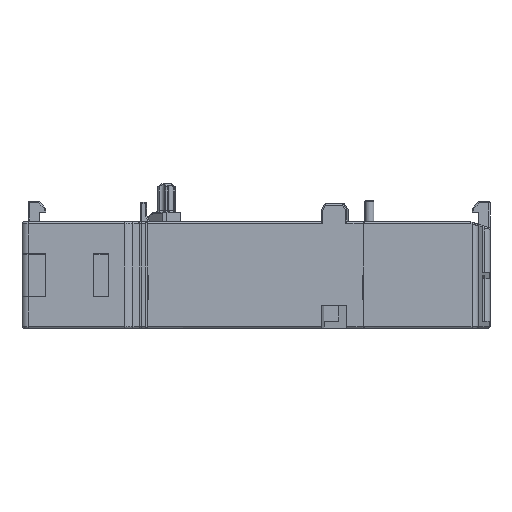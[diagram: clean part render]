
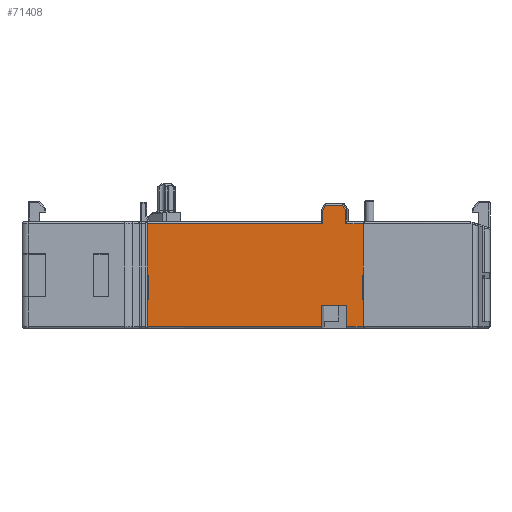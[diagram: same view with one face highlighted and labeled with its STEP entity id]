
A CAD part, front view. The second image highlights one B-rep face of the part: STEP entity #71408.
In plain terms, the highlighted planar face has unit normal (0, -1, 0).
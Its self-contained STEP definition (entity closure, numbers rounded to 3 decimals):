
#2651=DIRECTION('',(0.,0.,1.));
#2652=VECTOR('',#2651,4.55);
#2653=CARTESIAN_POINT('',(9.8,-46.,0.3));
#2654=LINE('',#2653,#2652);
#2667=DIRECTION('',(-1.,0.,0.));
#2668=VECTOR('',#2667,0.1);
#2669=CARTESIAN_POINT('',(9.8,-46.,8.85));
#2670=LINE('',#2669,#2668);
#23245=DIRECTION('',(0.,0.,-1.));
#23246=VECTOR('',#23245,4.);
#23247=CARTESIAN_POINT('',(-26.,-46.,8.85));
#23248=LINE('',#23247,#23246);
#23249=DIRECTION('',(-1.,0.,0.));
#23250=VECTOR('',#23249,0.2);
#23251=CARTESIAN_POINT('',(-26.,-46.,8.85));
#23252=LINE('',#23251,#23250);
#23393=DIRECTION('',(1.,0.,0.));
#23394=VECTOR('',#23393,0.2);
#23395=CARTESIAN_POINT('',(-26.2,-46.,4.85));
#23396=LINE('',#23395,#23394);
#23397=DIRECTION('',(0.,0.,-1.));
#23398=VECTOR('',#23397,8.55);
#23399=CARTESIAN_POINT('',(-26.2,-46.,17.4));
#23400=LINE('',#23399,#23398);
#23401=DIRECTION('',(1.,0.,0.));
#23402=VECTOR('',#23401,29.192);
#23403=CARTESIAN_POINT('',(-26.2,-46.,17.4));
#23404=LINE('',#23403,#23402);
#23405=DIRECTION('',(-0.506,0.,-0.863));
#23406=VECTOR('',#23405,0.989);
#23407=CARTESIAN_POINT('',(3.493,-46.,20.5));
#23408=LINE('',#23407,#23406);
#23409=DIRECTION('',(1.,0.,0.));
#23410=VECTOR('',#23409,2.858);
#23411=CARTESIAN_POINT('',(3.493,-46.,20.5));
#23412=LINE('',#23411,#23410);
#23413=DIRECTION('',(-0.506,0.,0.863));
#23414=VECTOR('',#23413,0.989);
#23415=CARTESIAN_POINT('',(6.851,-46.,19.646));
#23416=LINE('',#23415,#23414);
#23417=DIRECTION('',(1.,0.,0.));
#23418=VECTOR('',#23417,2.949);
#23419=CARTESIAN_POINT('',(6.851,-46.,17.4));
#23420=LINE('',#23419,#23418);
#23421=DIRECTION('',(0.,0.,-1.));
#23422=VECTOR('',#23421,8.55);
#23423=CARTESIAN_POINT('',(9.8,-46.,17.4));
#23424=LINE('',#23423,#23422);
#23425=DIRECTION('',(0.,0.,-1.));
#23426=VECTOR('',#23425,4.);
#23427=CARTESIAN_POINT('',(9.7,-46.,8.85));
#23428=LINE('',#23427,#23426);
#23429=DIRECTION('',(1.,0.,0.));
#23430=VECTOR('',#23429,0.1);
#23431=CARTESIAN_POINT('',(9.7,-46.,4.85));
#23432=LINE('',#23431,#23430);
#23433=DIRECTION('',(-1.,0.,0.));
#23434=VECTOR('',#23433,2.832);
#23435=CARTESIAN_POINT('',(9.8,-46.,0.3));
#23436=LINE('',#23435,#23434);
#23437=DIRECTION('',(0.,0.,1.));
#23438=VECTOR('',#23437,3.5);
#23439=CARTESIAN_POINT('',(6.968,-46.,0.3));
#23440=LINE('',#23439,#23438);
#23441=DIRECTION('',(-1.,0.,0.));
#23442=VECTOR('',#23441,4.163);
#23443=CARTESIAN_POINT('',(6.968,-46.,3.8));
#23444=LINE('',#23443,#23442);
#23445=DIRECTION('',(0.,0.,1.));
#23446=VECTOR('',#23445,3.5);
#23447=CARTESIAN_POINT('',(2.805,-46.,0.3));
#23448=LINE('',#23447,#23446);
#23449=DIRECTION('',(-1.,0.,0.));
#23450=VECTOR('',#23449,29.005);
#23451=CARTESIAN_POINT('',(2.805,-46.,0.3));
#23452=LINE('',#23451,#23450);
#23453=DIRECTION('',(0.,0.,1.));
#23454=VECTOR('',#23453,4.55);
#23455=CARTESIAN_POINT('',(-26.2,-46.,0.3));
#23456=LINE('',#23455,#23454);
#23457=DIRECTION('',(0.,0.,-1.));
#23458=VECTOR('',#23457,2.246);
#23459=CARTESIAN_POINT('',(2.992,-46.,19.646));
#23460=LINE('',#23459,#23458);
#23857=DIRECTION('',(0.,0.,1.));
#23858=VECTOR('',#23857,2.246);
#23859=CARTESIAN_POINT('',(6.851,-46.,17.4));
#23860=LINE('',#23859,#23858);
#23949=CARTESIAN_POINT('',(6.968,-46.,0.3));
#23975=CARTESIAN_POINT('',(2.805,-46.,0.3));
#34062=CARTESIAN_POINT('',(6.968,-46.,3.8));
#34063=CARTESIAN_POINT('',(2.805,-46.,3.8));
#34064=VERTEX_POINT('',#34062);
#34065=VERTEX_POINT('',#34063);
#34897=CARTESIAN_POINT('',(-26.2,-46.,4.85));
#34898=VERTEX_POINT('',#34897);
#34899=CARTESIAN_POINT('',(9.8,-46.,4.85));
#34900=VERTEX_POINT('',#34899);
#35366=CARTESIAN_POINT('',(9.8,-46.,0.3));
#35367=VERTEX_POINT('',#35366);
#35369=VERTEX_POINT('',#23949);
#35370=VERTEX_POINT('',#23975);
#35374=CARTESIAN_POINT('',(-26.2,-46.,0.3));
#35375=VERTEX_POINT('',#35374);
#40327=CARTESIAN_POINT('',(9.7,-46.,8.85));
#40329=VERTEX_POINT('',#40327);
#40330=CARTESIAN_POINT('',(-26.,-46.,8.85));
#40332=VERTEX_POINT('',#40330);
#40510=CARTESIAN_POINT('',(3.493,-46.,20.5));
#40511=CARTESIAN_POINT('',(6.351,-46.,20.5));
#40512=VERTEX_POINT('',#40510);
#40513=VERTEX_POINT('',#40511);
#40518=CARTESIAN_POINT('',(6.851,-46.,19.646));
#40519=VERTEX_POINT('',#40518);
#40540=CARTESIAN_POINT('',(2.992,-46.,19.646));
#40541=VERTEX_POINT('',#40540);
#41602=CARTESIAN_POINT('',(-26.2,-46.,17.4));
#41603=VERTEX_POINT('',#41602);
#41604=CARTESIAN_POINT('',(2.992,-46.,17.4));
#41605=VERTEX_POINT('',#41604);
#41612=CARTESIAN_POINT('',(6.851,-46.,17.4));
#41613=CARTESIAN_POINT('',(9.8,-46.,17.4));
#41614=VERTEX_POINT('',#41612);
#41615=VERTEX_POINT('',#41613);
#41707=CARTESIAN_POINT('',(9.8,-46.,8.85));
#41709=VERTEX_POINT('',#41707);
#41826=CARTESIAN_POINT('',(-26.2,-46.,8.85));
#41828=VERTEX_POINT('',#41826);
#41886=CARTESIAN_POINT('',(9.7,-46.,4.85));
#41887=VERTEX_POINT('',#41886);
#41888=CARTESIAN_POINT('',(-26.,-46.,4.85));
#41889=VERTEX_POINT('',#41888);
#71367=CARTESIAN_POINT('',(-27.2,-46.,1.15));
#71368=DIRECTION('',(0.,-1.,0.));
#71369=DIRECTION('',(1.,0.,0.));
#71370=AXIS2_PLACEMENT_3D('',#71367,#71368,#71369);
#71371=PLANE('',#71370);
#71372=ORIENTED_EDGE('',*,*,#71220,.T.);
#71373=ORIENTED_EDGE('',*,*,#71242,.F.);
#71374=ORIENTED_EDGE('',*,*,#71254,.T.);
#71375=ORIENTED_EDGE('',*,*,#71270,.F.);
#71376=ORIENTED_EDGE('',*,*,#71356,.T.);
#71378=ORIENTED_EDGE('',*,*,#71377,.F.);
#71380=ORIENTED_EDGE('',*,*,#71379,.F.);
#71382=ORIENTED_EDGE('',*,*,#71381,.T.);
#71384=ORIENTED_EDGE('',*,*,#71383,.F.);
#71386=ORIENTED_EDGE('',*,*,#71385,.F.);
#71388=ORIENTED_EDGE('',*,*,#71387,.T.);
#71389=ORIENTED_EDGE('',*,*,#44751,.T.);
#71390=ORIENTED_EDGE('',*,*,#44779,.T.);
#71392=ORIENTED_EDGE('',*,*,#71391,.T.);
#71393=ORIENTED_EDGE('',*,*,#71226,.T.);
#71394=ORIENTED_EDGE('',*,*,#44758,.F.);
#71396=ORIENTED_EDGE('',*,*,#71395,.T.);
#71398=ORIENTED_EDGE('',*,*,#71397,.T.);
#71400=ORIENTED_EDGE('',*,*,#71399,.T.);
#71402=ORIENTED_EDGE('',*,*,#71401,.F.);
#71404=ORIENTED_EDGE('',*,*,#71403,.T.);
#71405=ORIENTED_EDGE('',*,*,#71276,.T.);
#71406=EDGE_LOOP('',(#71372,#71373,#71374,#71375,#71376,#71378,#71380,#71382,
#71384,#71386,#71388,#71389,#71390,#71392,#71393,#71394,#71396,#71398,#71400,
#71402,#71404,#71405));
#71407=FACE_OUTER_BOUND('',#71406,.F.);
#71408=ADVANCED_FACE('',(#71407),#71371,.T.);
#44751=EDGE_CURVE('',#41615,#41709,#23424,.T.);
#44758=EDGE_CURVE('',#35367,#34900,#2654,.T.);
#44779=EDGE_CURVE('',#41709,#40329,#2670,.T.);
#71220=EDGE_CURVE('',#34898,#41889,#23396,.T.);
#71226=EDGE_CURVE('',#41887,#34900,#23432,.T.);
#71242=EDGE_CURVE('',#40332,#41889,#23248,.T.);
#71254=EDGE_CURVE('',#40332,#41828,#23252,.T.);
#71270=EDGE_CURVE('',#41603,#41828,#23400,.T.);
#71276=EDGE_CURVE('',#35375,#34898,#23456,.T.);
#71356=EDGE_CURVE('',#41603,#41605,#23404,.T.);
#71377=EDGE_CURVE('',#40541,#41605,#23460,.T.);
#71379=EDGE_CURVE('',#40512,#40541,#23408,.T.);
#71381=EDGE_CURVE('',#40512,#40513,#23412,.T.);
#71383=EDGE_CURVE('',#40519,#40513,#23416,.T.);
#71385=EDGE_CURVE('',#41614,#40519,#23860,.T.);
#71387=EDGE_CURVE('',#41614,#41615,#23420,.T.);
#71391=EDGE_CURVE('',#40329,#41887,#23428,.T.);
#71395=EDGE_CURVE('',#35367,#35369,#23436,.T.);
#71397=EDGE_CURVE('',#35369,#34064,#23440,.T.);
#71399=EDGE_CURVE('',#34064,#34065,#23444,.T.);
#71401=EDGE_CURVE('',#35370,#34065,#23448,.T.);
#71403=EDGE_CURVE('',#35370,#35375,#23452,.T.);
